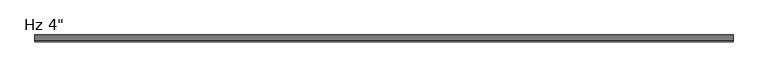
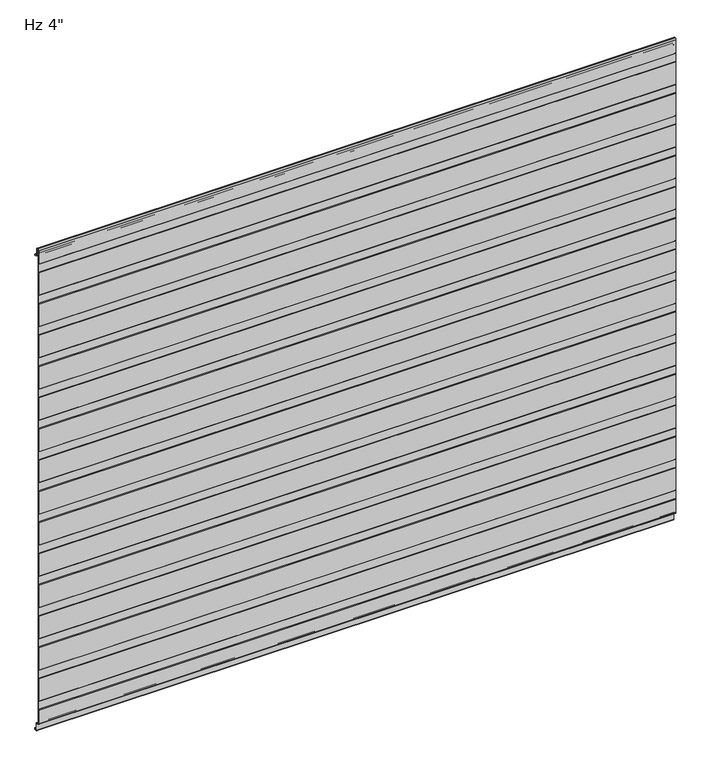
"""IFC4 building model written with IfcOpenShell, lengths in millimetres: plate geometry."""

from ifc_helpers import new_model, si_unit, frame, origin, place, context, project, spatial, polyline, circle_curve, source, transform, mapped, element, save
from ifc_brep_helpers import plane_surface, cylinder_surface, revolved_surface, advanced_brep


def plate_8299596e(model_context):
    return source(origin(), model_context, "Body", "AdvancedBrep", [
        advanced_brep(
        [(-730.0, -101.6, 966.9508592), (-730.0, -101.6, 1021.5303137), (-730.0, -100.4088405, 1022.6028385), (-730.0, -100.4088405, 1041.5009546), (-730.0, -101.6, 1042.5734794), (-730.0, -101.6, 1097.152934), (-730.0, -100.4088405, 1098.2254588), (-730.0, -100.4088405, 1117.1235749), (-730.0, -101.5999956, 1118.1960958), (-730.0, -101.5999956, 1150.8100652), (-730.0, -98.6227271, 1153.7873337), (-730.0, -97.5806285, 1153.7873337), (-730.0, -94.60336, 1150.8100652), (-730.0, -94.60336, 1136.6216801), (-730.0, -93.0154834, 1135.0338036), (-730.0, -88.6950653, 1135.0338036), (-730.0, -87.1065979, 1133.3929042), (-730.0, -87.1065979, 1131.0482432), (-730.0, -88.1060718, 1131.0482432), (-730.0, -88.1060718, 1133.4253365), (-730.0, -88.6950653, 1134.0338037), (-730.0, -93.0154834, 1134.0338037), (-730.0, -95.60336, 1136.6216801), (-730.0, -95.60336, 1150.8100652), (-730.0, -97.5806285, 1152.7873337), (-730.0, -98.6227271, 1152.7873337), (-730.0, -100.5999956, 1150.8100652), (-730.0, -100.5999956, 1118.6385351), (-730.0, -99.4088405, 1117.5660142), (-730.0, -99.4088405, 1097.7830195), (-730.0, -100.6, 1096.7104947), (-730.0, -100.6, 1043.0159187), (-730.0, -99.4088405, 1041.9433939), (-730.0, -99.4088405, 1022.1603992), (-730.0, -100.6, 1021.0878744), (-730.0, -100.6, 967.3932985), (-730.0, -99.4088405, 966.3207736), (-730.0, -99.4088405, 946.537779), (-730.0, -100.6, 945.4652541), (-730.0, -100.6, 891.7706782), (-730.0, -99.4088405, 890.6981534), (-730.0, -99.4088405, 870.9151587), (-730.0, -100.6, 869.8426339), (-730.0, -100.6, 816.148058), (-730.0, -99.4088405, 815.0755331), (-730.0, -99.4088405, 795.2925384), (-730.0, -100.6, 794.2200136), (-730.0, -100.6, 740.5254377), (-730.0, -99.4088405, 739.4529129), (-730.0, -99.4088405, 719.6699182), (-730.0, -100.6, 718.5973933), (-730.0, -100.6, 664.9028174), (-730.0, -99.4088405, 663.8302926), (-730.0, -99.4088405, 644.0472979), (-730.0, -100.6, 642.9747731), (-730.0, -100.6, 589.2801972), (-730.0, -99.4088405, 588.2076723), (-730.0, -99.4088405, 568.4246776), (-730.0, -100.6, 567.3521528), (-730.0, -100.6, 513.6575769), (-730.0, -99.4088405, 512.5850521), (-730.0, -99.4088405, 492.8020574), (-730.0, -100.6, 491.7295325), (-730.0, -100.6, 438.0349566), (-730.0, -99.4088405, 436.9624318), (-730.0, -99.4088405, 417.1794371), (-730.0, -100.6, 416.1069123), (-730.0, -100.6, 362.4123364), (-730.0, -99.4088405, 361.3398115), (-730.0, -99.4088405, 341.5568169), (-730.0, -100.6, 340.484292), (-730.0, -100.6, 286.7897161), (-730.0, -99.4088405, 285.7171913), (-730.0, -99.4088405, 265.9341966), (-730.0, -100.6, 264.8616718), (-730.0, -100.6, 211.1670958), (-730.0, -99.4088405, 210.094571), (-730.0, -99.4088405, 190.3115763), (-730.0, -100.6, 189.2390515), (-730.0, -100.6, 135.5444756), (-730.0, -99.4088405, 134.4719507), (-730.0, -99.4088405, 114.6889561), (-730.0, -100.6, 113.6164312), (-730.0, -100.6, 59.9218553), (-730.0, -99.4088405, 58.8493305), (-730.0, -99.4088405, 39.0663358), (-730.0, -100.6, 37.993811), (-730.0, -100.6, 5.82722), (-730.0, -98.6227096, 3.8499526), (-730.0, -96.3308258, 3.8499526), (-730.0, -92.3535573, -0.1273159), (-730.0, -92.3535573, -15.7237419), (-730.0, -91.7656807, -16.3116185), (-730.0, -88.694132, -16.3116185), (-730.0, -88.1062555, -15.7237419), (-730.0, -88.1062555, -13.3687064), (-730.0, -87.1062555, -13.3687064), (-730.0, -87.1062555, -15.7237419), (-730.0, -88.694132, -17.3116185), (-730.0, -91.7656807, -17.3116185), (-730.0, -93.3535573, -15.7237419), (-730.0, -93.3535573, -0.1273159), (-730.0, -96.3308258, 2.8499526), (-730.0, -98.6227096, 2.8499526), (-730.0, -101.5999782, 5.8272193), (-730.0, -101.6, 38.4362503), (-730.0, -100.4088405, 39.5087751), (-730.0, -100.4088405, 58.4068912), (-730.0, -101.6, 59.479416), (-730.0, -101.6, 114.0588705), (-730.0, -100.4088405, 115.1313954), (-730.0, -100.4088405, 134.0295114), (-730.0, -101.6, 135.1020363), (-730.0, -101.6, 189.6814908), (-730.0, -100.4088405, 190.7540156), (-730.0, -100.4088405, 209.6521317), (-730.0, -101.6, 210.7246565), (-730.0, -101.6, 265.3041111), (-730.0, -100.4088405, 266.3766359), (-730.0, -100.4088405, 285.274752), (-730.0, -101.6, 286.3472768), (-730.0, -101.6, 340.9267313), (-730.0, -100.4088405, 341.9992562), (-730.0, -100.4088405, 360.8973722), (-730.0, -101.6, 361.9698971), (-730.0, -101.6, 416.5493516), (-730.0, -100.4088405, 417.6218764), (-730.0, -100.4088405, 436.5199925), (-730.0, -101.6, 437.5925173), (-730.0, -101.6, 492.1719719), (-730.0, -100.4088405, 493.2444967), (-730.0, -100.4088405, 512.1426127), (-730.0, -101.6, 513.2151376), (-730.0, -101.6, 567.7945921), (-730.0, -100.4088405, 568.867117), (-730.0, -100.4088405, 587.765233), (-730.0, -101.6, 588.8377578), (-730.0, -101.6, 643.4172124), (-730.0, -100.4088405, 644.4897372), (-730.0, -100.4088405, 663.3878533), (-730.0, -101.6, 664.4603781), (-730.0, -101.6, 719.0398327), (-730.0, -100.4088405, 720.1123575), (-730.0, -100.4088405, 739.0104735), (-730.0, -101.6, 740.0829984), (-730.0, -101.6, 794.6624529), (-730.0, -100.4088405, 795.7349778), (-730.0, -100.4088405, 814.6330938), (-730.0, -101.6, 815.7056186), (-730.0, -101.6, 870.2850732), (-730.0, -100.4088405, 871.357598), (-730.0, -100.4088405, 890.2557141), (-730.0, -101.6, 891.3282389), (-730.0, -101.6, 945.9076934), (-730.0, -100.4088405, 946.9802183), (-730.0, -100.4088405, 965.8783343), (730.0, -101.6, 966.9508592), (730.0, -100.4088405, 965.8783343), (730.0, -100.4088405, 946.9802183), (730.0, -101.6, 945.9076934), (730.0, -101.6, 891.3282389), (730.0, -100.4088405, 890.2557141), (730.0, -100.4088405, 871.357598), (730.0, -101.6, 870.2850732), (730.0, -101.6, 815.7056186), (730.0, -100.4088405, 814.6330938), (730.0, -100.4088405, 795.7349778), (730.0, -101.6, 794.6624529), (730.0, -101.6, 740.0829984), (730.0, -100.4088405, 739.0104735), (730.0, -100.4088405, 720.1123575), (730.0, -101.6, 719.0398327), (730.0, -101.6, 664.4603781), (730.0, -100.4088405, 663.3878533), (730.0, -100.4088405, 644.4897372), (730.0, -101.6, 643.4172124), (730.0, -101.6, 588.8377578), (730.0, -100.4088405, 587.765233), (730.0, -100.4088405, 568.867117), (730.0, -101.6, 567.7945921), (730.0, -101.6, 513.2151376), (730.0, -100.4088405, 512.1426127), (730.0, -100.4088405, 493.2444967), (730.0, -101.6, 492.1719719), (730.0, -101.6, 437.5925173), (730.0, -100.4088405, 436.5199925), (730.0, -100.4088405, 417.6218764), (730.0, -101.6, 416.5493516), (730.0, -101.6, 361.9698971), (730.0, -100.4088405, 360.8973722), (730.0, -100.4088405, 341.9992562), (730.0, -101.6, 340.9267313), (730.0, -101.6, 286.3472768), (730.0, -100.4088405, 285.274752), (730.0, -100.4088405, 266.3766359), (730.0, -101.6, 265.3041111), (730.0, -101.6, 210.7246565), (730.0, -100.4088405, 209.6521317), (730.0, -100.4088405, 190.7540156), (730.0, -101.6, 189.6814908), (730.0, -101.6, 135.1020363), (730.0, -100.4088405, 134.0295114), (730.0, -100.4088405, 115.1313954), (730.0, -101.6, 114.0588705), (730.0, -101.6, 59.479416), (730.0, -100.4088405, 58.4068912), (730.0, -100.4088405, 39.5087751), (730.0, -101.6, 38.4362503), (730.0, -101.6, 5.8272193), (730.0, -98.6227096, 2.8499526), (730.0, -96.3308258, 2.8499526), (730.0, -93.3535573, -0.1273159), (730.0, -93.3535573, -15.7237419), (730.0, -91.7656807, -17.3116185), (730.0, -88.694132, -17.3116185), (730.0, -87.1062555, -15.7237419), (730.0, -87.1062555, -13.3687064), (730.0, -88.1062555, -13.3687064), (730.0, -88.1062555, -15.7237419), (730.0, -88.694132, -16.3116185), (730.0, -91.7656807, -16.3116185), (730.0, -92.3535573, -15.7237419), (730.0, -92.3535573, -0.1273159), (730.0, -96.3308258, 3.8499526), (730.0, -98.6227096, 3.8499526), (730.0, -100.5999782, 5.82722), (730.0, -100.6, 37.993811), (730.0, -99.4088405, 39.0663358), (730.0, -99.4088405, 58.8493305), (730.0, -100.6, 59.9218553), (730.0, -100.6, 113.6164312), (730.0, -99.4088405, 114.6889561), (730.0, -99.4088405, 134.4719507), (730.0, -100.6, 135.5444756), (730.0, -100.6, 189.2390515), (730.0, -99.4088405, 190.3115763), (730.0, -99.4088405, 210.094571), (730.0, -100.6, 211.1670958), (730.0, -100.6, 264.8616718), (730.0, -99.4088405, 265.9341966), (730.0, -99.4088405, 285.7171913), (730.0, -100.6, 286.7897161), (730.0, -100.6, 340.484292), (730.0, -99.4088405, 341.5568169), (730.0, -99.4088405, 361.3398115), (730.0, -100.6, 362.4123364), (730.0, -100.6, 416.1069123), (730.0, -99.4088405, 417.1794371), (730.0, -99.4088405, 436.9624318), (730.0, -100.6, 438.0349566), (730.0, -100.6, 491.7295325), (730.0, -99.4088405, 492.8020574), (730.0, -99.4088405, 512.5850521), (730.0, -100.6, 513.6575769), (730.0, -100.6, 567.3521528), (730.0, -99.4088405, 568.4246776), (730.0, -99.4088405, 588.2076723), (730.0, -100.6, 589.2801972), (730.0, -100.6, 642.9747731), (730.0, -99.4088405, 644.0472979), (730.0, -99.4088405, 663.8302926), (730.0, -100.6, 664.9028174), (730.0, -100.6, 718.5973933), (730.0, -99.4088405, 719.6699182), (730.0, -99.4088405, 739.4529129), (730.0, -100.6, 740.5254377), (730.0, -100.6, 794.2200136), (730.0, -99.4088405, 795.2925384), (730.0, -99.4088405, 815.0755331), (730.0, -100.6, 816.148058), (730.0, -100.6, 869.8426339), (730.0, -99.4088405, 870.9151587), (730.0, -99.4088405, 890.6981534), (730.0, -100.6, 891.7706782), (730.0, -100.6, 945.4652541), (730.0, -99.4088405, 946.537779), (730.0, -99.4088405, 966.3207736), (730.0, -100.6, 967.3932985), (730.0, -100.6, 1021.0878744), (730.0, -99.4088405, 1022.1603992), (730.0, -99.4088405, 1041.9433939), (730.0, -100.6, 1043.0159187), (730.0, -100.6, 1096.7104947), (730.0, -99.4088405, 1097.7830195), (730.0, -99.4088405, 1117.5660142), (730.0, -100.5999956, 1118.6385351), (730.0, -100.5999956, 1150.8100652), (730.0, -98.6227271, 1152.7873337), (730.0, -97.5806285, 1152.7873337), (730.0, -95.60336, 1150.8100652), (730.0, -95.60336, 1136.6216801), (730.0, -93.0154834, 1134.0338036), (730.0, -88.6950653, 1134.0338037), (730.0, -88.1060718, 1133.4253365), (730.0, -88.1060718, 1131.0482432), (730.0, -87.1065979, 1131.0482432), (730.0, -87.1065979, 1133.3929042), (730.0, -88.6950653, 1135.0338037), (730.0, -93.0154834, 1135.0338036), (730.0, -94.60336, 1136.6216801), (730.0, -94.60336, 1150.8100652), (730.0, -97.5806285, 1153.7873337), (730.0, -98.6227271, 1153.7873337), (730.0, -101.5999956, 1150.8100652), (730.0, -101.5999956, 1118.1960958), (730.0, -100.4088405, 1117.1235749), (730.0, -100.4088405, 1098.2254588), (730.0, -101.6, 1097.152934), (730.0, -101.6, 1042.5734794), (730.0, -100.4088405, 1041.5009546), (730.0, -100.4088405, 1022.6028385), (730.0, -101.6, 1021.5303137)],
        [
            (0, 1),
            (1, 2),
            (2, 3),
            (3, 4),
            (4, 5),
            (5, 6),
            (6, 7),
            (7, 8),
            (8, 9),
            (9, 10, circle_curve(frame((-730.0, -98.6227271, 1150.8100652), z_axis=(-1.0, 0.0, 0.0), x_axis=(0.0, 0.0, -1.0)), 2.9772685)),
            (10, 11),
            (11, 12, circle_curve(frame((-730.0, -97.5806285, 1150.8100652), z_axis=(-1.0, 0.0, 0.0), x_axis=(0.0, 0.0, -1.0)), 2.9772685)),
            (12, 13),
            (13, 14, circle_curve(frame((-730.0, -93.0154834, 1136.6216801), z_axis=(1.0, 0.0, 0.0), x_axis=(0.0, 0.0, -1.0)), 1.5878765)),
            (14, 15),
            (15, 16, circle_curve(frame((-730.0, -88.6950653, 1133.4444985), z_axis=(-1.0, 0.0, 0.0), x_axis=(0.0, 0.0, -1.0)), 1.5893052)),
            (16, 17),
            (17, 18),
            (18, 19),
            (19, 20, circle_curve(frame((-730.0, -88.6950653, 1133.4444985), z_axis=(1.0, 0.0, 0.0), x_axis=(0.0, 0.0, -1.0)), 0.5893052)),
            (20, 21),
            (21, 22, circle_curve(frame((-730.0, -93.0154834, 1136.6216801), z_axis=(-1.0, 0.0, 0.0), x_axis=(0.0, 0.0, -1.0)), 2.5878765)),
            (22, 23),
            (23, 24, circle_curve(frame((-730.0, -97.5806285, 1150.8100652), z_axis=(1.0, 0.0, 0.0), x_axis=(0.0, 0.0, -1.0)), 1.9772685)),
            (24, 25),
            (25, 26, circle_curve(frame((-730.0, -98.6227271, 1150.8100652), z_axis=(1.0, 0.0, 0.0), x_axis=(0.0, 0.0, -1.0)), 1.9772685)),
            (26, 27),
            (27, 28),
            (28, 29),
            (29, 30),
            (30, 31),
            (31, 32),
            (32, 33),
            (33, 34),
            (34, 35),
            (35, 36),
            (36, 37),
            (37, 38),
            (38, 39),
            (39, 40),
            (40, 41),
            (41, 42),
            (42, 43),
            (43, 44),
            (44, 45),
            (45, 46),
            (46, 47),
            (47, 48),
            (48, 49),
            (49, 50),
            (50, 51),
            (51, 52),
            (52, 53),
            (53, 54),
            (54, 55),
            (55, 56),
            (56, 57),
            (57, 58),
            (58, 59),
            (59, 60),
            (60, 61),
            (61, 62),
            (62, 63),
            (63, 64),
            (64, 65),
            (65, 66),
            (66, 67),
            (67, 68),
            (68, 69),
            (69, 70),
            (70, 71),
            (71, 72),
            (72, 73),
            (73, 74),
            (74, 75),
            (75, 76),
            (76, 77),
            (77, 78),
            (78, 79),
            (79, 80),
            (80, 81),
            (81, 82),
            (82, 83),
            (83, 84),
            (84, 85),
            (85, 86),
            (86, 87),
            (87, 88, circle_curve(frame((-730.0, -98.6227096, 5.8272212), z_axis=(1.0, 0.0, 0.0), x_axis=(0.0, 0.0, -1.0)), 1.9772685)),
            (88, 89),
            (89, 90, circle_curve(frame((-730.0, -96.3308258, -0.1273159), z_axis=(-1.0, 0.0, 0.0), x_axis=(0.0, 0.0, -1.0)), 3.9772685)),
            (90, 91),
            (91, 92, circle_curve(frame((-730.0, -91.7656807, -15.7237419), z_axis=(1.0, 0.0, 0.0), x_axis=(0.0, 0.0, -1.0)), 0.5878765)),
            (92, 93),
            (93, 94, circle_curve(frame((-730.0, -88.694132, -15.7237419), z_axis=(1.0, 0.0, 0.0), x_axis=(0.0, 0.0, -1.0)), 0.5878765)),
            (94, 95),
            (95, 96),
            (96, 97),
            (97, 98, circle_curve(frame((-730.0, -88.694132, -15.7237419), z_axis=(-1.0, 0.0, 0.0), x_axis=(0.0, 0.0, -1.0)), 1.5878765)),
            (98, 99),
            (99, 100, circle_curve(frame((-730.0, -91.7656807, -15.7237419), z_axis=(-1.0, 0.0, 0.0), x_axis=(0.0, 0.0, -1.0)), 1.5878765)),
            (100, 101),
            (101, 102, circle_curve(frame((-730.0, -96.3308258, -0.1273159), z_axis=(1.0, 0.0, 0.0), x_axis=(0.0, 0.0, -1.0)), 2.9772685)),
            (102, 103),
            (103, 104, circle_curve(frame((-730.0, -98.6227096, 5.8272211), z_axis=(-1.0, 0.0, 0.0), x_axis=(0.0, 0.0, -1.0)), 2.9772685)),
            (104, 105),
            (105, 106),
            (106, 107),
            (107, 108),
            (108, 109),
            (109, 110),
            (110, 111),
            (111, 112),
            (112, 113),
            (113, 114),
            (114, 115),
            (115, 116),
            (116, 117),
            (117, 118),
            (118, 119),
            (119, 120),
            (120, 121),
            (121, 122),
            (122, 123),
            (123, 124),
            (124, 125),
            (125, 126),
            (126, 127),
            (127, 128),
            (128, 129),
            (129, 130),
            (130, 131),
            (131, 132),
            (132, 133),
            (133, 134),
            (134, 135),
            (135, 136),
            (136, 137),
            (137, 138),
            (138, 139),
            (139, 140),
            (140, 141),
            (141, 142),
            (142, 143),
            (143, 144),
            (144, 145),
            (145, 146),
            (146, 147),
            (147, 148),
            (148, 149),
            (149, 150),
            (150, 151),
            (151, 152),
            (152, 153),
            (153, 154),
            (154, 155),
            (155, 0),
            (156, 157),
            (157, 158),
            (158, 159),
            (159, 160),
            (160, 161),
            (161, 162),
            (162, 163),
            (163, 164),
            (164, 165),
            (165, 166),
            (166, 167),
            (167, 168),
            (168, 169),
            (169, 170),
            (170, 171),
            (171, 172),
            (172, 173),
            (173, 174),
            (174, 175),
            (175, 176),
            (176, 177),
            (177, 178),
            (178, 179),
            (179, 180),
            (180, 181),
            (181, 182),
            (182, 183),
            (183, 184),
            (184, 185),
            (185, 186),
            (186, 187),
            (187, 188),
            (188, 189),
            (189, 190),
            (190, 191),
            (191, 192),
            (192, 193),
            (193, 194),
            (194, 195),
            (195, 196),
            (196, 197),
            (197, 198),
            (198, 199),
            (199, 200),
            (200, 201),
            (201, 202),
            (202, 203),
            (203, 204),
            (204, 205),
            (205, 206),
            (206, 207),
            (207, 208),
            (208, 209, circle_curve(frame((730.0, -98.6227096, 5.8272211), z_axis=(1.0, 0.0, 0.0), x_axis=(0.0, 0.0, -1.0)), 2.9772685)),
            (209, 210),
            (210, 211, circle_curve(frame((730.0, -96.3308258, -0.1273159), z_axis=(-1.0, 0.0, 0.0), x_axis=(0.0, 0.0, -1.0)), 2.9772685)),
            (211, 212),
            (212, 213, circle_curve(frame((730.0, -91.7656807, -15.7237419), z_axis=(1.0, 0.0, 0.0), x_axis=(0.0, 0.0, -1.0)), 1.5878765)),
            (213, 214),
            (214, 215, circle_curve(frame((730.0, -88.694132, -15.7237419), z_axis=(1.0, 0.0, 0.0), x_axis=(0.0, 0.0, -1.0)), 1.5878765)),
            (215, 216),
            (216, 217),
            (217, 218),
            (218, 219, circle_curve(frame((730.0, -88.694132, -15.7237419), z_axis=(-1.0, 0.0, 0.0), x_axis=(0.0, 0.0, -1.0)), 0.5878765)),
            (219, 220),
            (220, 221, circle_curve(frame((730.0, -91.7656807, -15.7237419), z_axis=(-1.0, 0.0, 0.0), x_axis=(0.0, 0.0, -1.0)), 0.5878765)),
            (221, 222),
            (222, 223, circle_curve(frame((730.0, -96.3308258, -0.1273159), z_axis=(1.0, 0.0, 0.0), x_axis=(0.0, 0.0, -1.0)), 3.9772685)),
            (223, 224),
            (224, 225, circle_curve(frame((730.0, -98.6227096, 5.8272212), z_axis=(-1.0, 0.0, 0.0), x_axis=(0.0, 0.0, -1.0)), 1.9772685)),
            (225, 226),
            (226, 227),
            (227, 228),
            (228, 229),
            (229, 230),
            (230, 231),
            (231, 232),
            (232, 233),
            (233, 234),
            (234, 235),
            (235, 236),
            (236, 237),
            (237, 238),
            (238, 239),
            (239, 240),
            (240, 241),
            (241, 242),
            (242, 243),
            (243, 244),
            (244, 245),
            (245, 246),
            (246, 247),
            (247, 248),
            (248, 249),
            (249, 250),
            (250, 251),
            (251, 252),
            (252, 253),
            (253, 254),
            (254, 255),
            (255, 256),
            (256, 257),
            (257, 258),
            (258, 259),
            (259, 260),
            (260, 261),
            (261, 262),
            (262, 263),
            (263, 264),
            (264, 265),
            (265, 266),
            (266, 267),
            (267, 268),
            (268, 269),
            (269, 270),
            (270, 271),
            (271, 272),
            (272, 273),
            (273, 274),
            (274, 275),
            (275, 276),
            (276, 277),
            (277, 278),
            (278, 279),
            (279, 280),
            (280, 281),
            (281, 282),
            (282, 283),
            (283, 284),
            (284, 285),
            (285, 286),
            (286, 287, circle_curve(frame((730.0, -98.6227271, 1150.8100652), z_axis=(-1.0, 0.0, 0.0), x_axis=(0.0, 0.0, -1.0)), 1.9772685)),
            (287, 288),
            (288, 289, circle_curve(frame((730.0, -97.5806285, 1150.8100652), z_axis=(-1.0, 0.0, 0.0), x_axis=(0.0, 0.0, -1.0)), 1.9772685)),
            (289, 290),
            (290, 291, circle_curve(frame((730.0, -93.0154834, 1136.6216801), z_axis=(1.0, 0.0, 0.0), x_axis=(0.0, 0.0, -1.0)), 2.5878765)),
            (291, 292),
            (292, 293, circle_curve(frame((730.0, -88.6950653, 1133.4444985), z_axis=(-1.0, 0.0, 0.0), x_axis=(0.0, 0.0, -1.0)), 0.5893052)),
            (293, 294),
            (294, 295),
            (295, 296),
            (296, 297, circle_curve(frame((730.0, -88.6950653, 1133.4444985), z_axis=(1.0, 0.0, 0.0), x_axis=(0.0, 0.0, -1.0)), 1.5893052)),
            (297, 298),
            (298, 299, circle_curve(frame((730.0, -93.0154834, 1136.6216801), z_axis=(-1.0, 0.0, 0.0), x_axis=(0.0, 0.0, -1.0)), 1.5878765)),
            (299, 300),
            (300, 301, circle_curve(frame((730.0, -97.5806285, 1150.8100652), z_axis=(1.0, 0.0, 0.0), x_axis=(0.0, 0.0, -1.0)), 2.9772685)),
            (301, 302),
            (302, 303, circle_curve(frame((730.0, -98.6227271, 1150.8100652), z_axis=(1.0, 0.0, 0.0), x_axis=(0.0, 0.0, -1.0)), 2.9772685)),
            (303, 304),
            (304, 305),
            (305, 306),
            (306, 307),
            (307, 308),
            (308, 309),
            (309, 310),
            (310, 311),
            (311, 156),
            (155, 157),
            (156, 0),
            (154, 158),
            (153, 159),
            (152, 160),
            (151, 161),
            (150, 162),
            (149, 163),
            (148, 164),
            (147, 165),
            (146, 166),
            (145, 167),
            (144, 168),
            (143, 169),
            (142, 170),
            (141, 171),
            (140, 172),
            (139, 173),
            (138, 174),
            (137, 175),
            (136, 176),
            (135, 177),
            (134, 178),
            (133, 179),
            (132, 180),
            (131, 181),
            (130, 182),
            (129, 183),
            (128, 184),
            (127, 185),
            (126, 186),
            (125, 187),
            (124, 188),
            (123, 189),
            (122, 190),
            (121, 191),
            (120, 192),
            (119, 193),
            (118, 194),
            (117, 195),
            (116, 196),
            (115, 197),
            (114, 198),
            (113, 199),
            (112, 200),
            (111, 201),
            (110, 202),
            (109, 203),
            (108, 204),
            (107, 205),
            (106, 206),
            (105, 207),
            (104, 208),
            (103, 209),
            (102, 210),
            (101, 211),
            (100, 212),
            (99, 213),
            (98, 214),
            (97, 215),
            (96, 216),
            (95, 217),
            (94, 218),
            (93, 219),
            (92, 220),
            (91, 221),
            (90, 222),
            (89, 223),
            (88, 224),
            (87, 225),
            (86, 226),
            (85, 227),
            (84, 228),
            (83, 229),
            (82, 230),
            (81, 231),
            (80, 232),
            (79, 233),
            (78, 234),
            (77, 235),
            (76, 236),
            (75, 237),
            (74, 238),
            (73, 239),
            (72, 240),
            (71, 241),
            (70, 242),
            (69, 243),
            (68, 244),
            (67, 245),
            (66, 246),
            (65, 247),
            (64, 248),
            (63, 249),
            (62, 250),
            (61, 251),
            (60, 252),
            (59, 253),
            (58, 254),
            (57, 255),
            (56, 256),
            (55, 257),
            (54, 258),
            (53, 259),
            (52, 260),
            (51, 261),
            (50, 262),
            (49, 263),
            (48, 264),
            (47, 265),
            (46, 266),
            (45, 267),
            (44, 268),
            (43, 269),
            (42, 270),
            (41, 271),
            (40, 272),
            (39, 273),
            (38, 274),
            (37, 275),
            (36, 276),
            (35, 277),
            (34, 278),
            (33, 279),
            (32, 280),
            (31, 281),
            (30, 282),
            (29, 283),
            (28, 284),
            (27, 285),
            (26, 286),
            (25, 287),
            (24, 288),
            (23, 289),
            (22, 290),
            (21, 291),
            (20, 292),
            (19, 293),
            (18, 294),
            (17, 295),
            (16, 296),
            (15, 297),
            (14, 298),
            (13, 299),
            (12, 300),
            (11, 301),
            (10, 302),
            (9, 303),
            (8, 304),
            (7, 305),
            (6, 306),
            (5, 307),
            (4, 308),
            (3, 309),
            (2, 310),
            (1, 311),
        ],
        [
            plane_surface(frame((-730.0, -101.6, 576.2625), z_axis=(-1.0, 0.0, 0.0), x_axis=(0.0, -1.0, 0.0))),
            plane_surface(frame((730.0, -101.6, 576.2625), z_axis=(1.0, 0.0, 0.0), x_axis=(0.0, -1.0, 0.0))),
            plane_surface(frame((-730.0, -101.6, 966.9508592), z_axis=(0.0, -0.6691306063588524, -0.7431448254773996), x_axis=(1.0, 0.0, 0.0))),
            plane_surface(frame((-730.0, -100.4088405, 965.8783343), z_axis=(0.0, -1.0, 0.0), x_axis=(1.0, 0.0, 0.0))),
            plane_surface(frame((-730.0, -100.4088405, 946.9802183), z_axis=(0.0, -0.6691306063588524, 0.7431448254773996), x_axis=(1.0, 0.0, 0.0))),
            plane_surface(frame((-730.0, -101.6, 945.9076934), z_axis=(0.0, -1.0, 0.0), x_axis=(1.0, 0.0, 0.0))),
            plane_surface(frame((-730.0, -101.6, 891.3282389), z_axis=(0.0, -0.6691306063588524, -0.7431448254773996), x_axis=(1.0, 0.0, 0.0))),
            plane_surface(frame((-730.0, -100.4088405, 890.2557141), z_axis=(0.0, -1.0, 0.0), x_axis=(1.0, 0.0, 0.0))),
            plane_surface(frame((-730.0, -100.4088405, 871.357598), z_axis=(0.0, -0.6691306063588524, 0.7431448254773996), x_axis=(1.0, 0.0, 0.0))),
            plane_surface(frame((-730.0, -101.6, 870.2850732), z_axis=(0.0, -1.0, 0.0), x_axis=(1.0, 0.0, 0.0))),
            plane_surface(frame((-730.0, -101.6, 815.7056186), z_axis=(0.0, -0.6691306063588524, -0.7431448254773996), x_axis=(1.0, 0.0, 0.0))),
            plane_surface(frame((-730.0, -100.4088405, 814.6330938), z_axis=(0.0, -1.0, 0.0), x_axis=(1.0, 0.0, 0.0))),
            plane_surface(frame((-730.0, -100.4088405, 795.7349778), z_axis=(0.0, -0.6691306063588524, 0.7431448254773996), x_axis=(1.0, 0.0, 0.0))),
            plane_surface(frame((-730.0, -101.6, 794.6624529), z_axis=(0.0, -1.0, 0.0), x_axis=(1.0, 0.0, 0.0))),
            plane_surface(frame((-730.0, -101.6, 740.0829984), z_axis=(0.0, -0.6691306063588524, -0.7431448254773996), x_axis=(1.0, 0.0, 0.0))),
            plane_surface(frame((-730.0, -100.4088405, 739.0104735), z_axis=(0.0, -1.0, 0.0), x_axis=(1.0, 0.0, 0.0))),
            plane_surface(frame((-730.0, -100.4088405, 720.1123575), z_axis=(0.0, -0.6691306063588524, 0.7431448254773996), x_axis=(1.0, 0.0, 0.0))),
            plane_surface(frame((-730.0, -101.6, 719.0398327), z_axis=(0.0, -1.0, 0.0), x_axis=(1.0, 0.0, 0.0))),
            plane_surface(frame((-730.0, -101.6, 664.4603781), z_axis=(0.0, -0.6691306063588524, -0.7431448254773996), x_axis=(1.0, 0.0, 0.0))),
            plane_surface(frame((-730.0, -100.4088405, 663.3878533), z_axis=(0.0, -1.0, 0.0), x_axis=(1.0, 0.0, 0.0))),
            plane_surface(frame((-730.0, -100.4088405, 644.4897372), z_axis=(0.0, -0.6691306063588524, 0.7431448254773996), x_axis=(1.0, 0.0, 0.0))),
            plane_surface(frame((-730.0, -101.6, 643.4172124), z_axis=(0.0, -1.0, 0.0), x_axis=(1.0, 0.0, 0.0))),
            plane_surface(frame((-730.0, -101.6, 588.8377578), z_axis=(0.0, -0.6691306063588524, -0.7431448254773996), x_axis=(1.0, 0.0, 0.0))),
            plane_surface(frame((-730.0, -100.4088405, 587.765233), z_axis=(0.0, -1.0, 0.0), x_axis=(1.0, 0.0, 0.0))),
            plane_surface(frame((-730.0, -100.4088405, 568.867117), z_axis=(0.0, -0.6691306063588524, 0.7431448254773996), x_axis=(1.0, 0.0, 0.0))),
            plane_surface(frame((-730.0, -101.6, 567.7945921), z_axis=(0.0, -1.0, 0.0), x_axis=(1.0, 0.0, 0.0))),
            plane_surface(frame((-730.0, -101.6, 513.2151376), z_axis=(0.0, -0.6691306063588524, -0.7431448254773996), x_axis=(1.0, 0.0, 0.0))),
            plane_surface(frame((-730.0, -100.4088405, 512.1426127), z_axis=(0.0, -1.0, 0.0), x_axis=(1.0, 0.0, 0.0))),
            plane_surface(frame((-730.0, -100.4088405, 493.2444967), z_axis=(0.0, -0.6691306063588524, 0.7431448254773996), x_axis=(1.0, 0.0, 0.0))),
            plane_surface(frame((-730.0, -101.6, 492.1719719), z_axis=(0.0, -1.0, 0.0), x_axis=(1.0, 0.0, 0.0))),
            plane_surface(frame((-730.0, -101.6, 437.5925173), z_axis=(0.0, -0.6691306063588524, -0.7431448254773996), x_axis=(1.0, 0.0, 0.0))),
            plane_surface(frame((-730.0, -100.4088405, 436.5199925), z_axis=(0.0, -1.0, 0.0), x_axis=(1.0, 0.0, 0.0))),
            plane_surface(frame((-730.0, -100.4088405, 417.6218764), z_axis=(0.0, -0.6691306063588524, 0.7431448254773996), x_axis=(1.0, 0.0, 0.0))),
            plane_surface(frame((-730.0, -101.6, 416.5493516), z_axis=(0.0, -1.0, 0.0), x_axis=(1.0, 0.0, 0.0))),
            plane_surface(frame((-730.0, -101.6, 361.9698971), z_axis=(0.0, -0.6691306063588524, -0.7431448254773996), x_axis=(1.0, 0.0, 0.0))),
            plane_surface(frame((-730.0, -100.4088405, 360.8973722), z_axis=(0.0, -1.0, 0.0), x_axis=(1.0, 0.0, 0.0))),
            plane_surface(frame((-730.0, -100.4088405, 341.9992562), z_axis=(0.0, -0.6691306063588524, 0.7431448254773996), x_axis=(1.0, 0.0, 0.0))),
            plane_surface(frame((-730.0, -101.6, 340.9267313), z_axis=(0.0, -1.0, 0.0), x_axis=(1.0, 0.0, 0.0))),
            plane_surface(frame((-730.0, -101.6, 286.3472768), z_axis=(0.0, -0.6691306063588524, -0.7431448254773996), x_axis=(1.0, 0.0, 0.0))),
            plane_surface(frame((-730.0, -100.4088405, 285.274752), z_axis=(0.0, -1.0, 0.0), x_axis=(1.0, 0.0, 0.0))),
            plane_surface(frame((-730.0, -100.4088405, 266.3766359), z_axis=(0.0, -0.6691306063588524, 0.7431448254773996), x_axis=(1.0, 0.0, 0.0))),
            plane_surface(frame((-730.0, -101.6, 265.3041111), z_axis=(0.0, -1.0, 0.0), x_axis=(1.0, 0.0, 0.0))),
            plane_surface(frame((-730.0, -101.6, 210.7246565), z_axis=(0.0, -0.6691306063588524, -0.7431448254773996), x_axis=(1.0, 0.0, 0.0))),
            plane_surface(frame((-730.0, -100.4088405, 209.6521317), z_axis=(0.0, -1.0, 0.0), x_axis=(1.0, 0.0, 0.0))),
            plane_surface(frame((-730.0, -100.4088405, 190.7540156), z_axis=(0.0, -0.6691306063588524, 0.7431448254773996), x_axis=(1.0, 0.0, 0.0))),
            plane_surface(frame((-730.0, -101.6, 189.6814908), z_axis=(0.0, -1.0, 0.0), x_axis=(1.0, 0.0, 0.0))),
            plane_surface(frame((-730.0, -101.6, 135.1020363), z_axis=(0.0, -0.6691306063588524, -0.7431448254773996), x_axis=(1.0, 0.0, 0.0))),
            plane_surface(frame((-730.0, -100.4088405, 134.0295114), z_axis=(0.0, -1.0, 0.0), x_axis=(1.0, 0.0, 0.0))),
            plane_surface(frame((-730.0, -100.4088405, 115.1313954), z_axis=(0.0, -0.6691306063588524, 0.7431448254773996), x_axis=(1.0, 0.0, 0.0))),
            plane_surface(frame((-730.0, -101.6, 114.0588705), z_axis=(0.0, -1.0, 0.0), x_axis=(1.0, 0.0, 0.0))),
            plane_surface(frame((-730.0, -101.6, 59.479416), z_axis=(0.0, -0.6691306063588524, -0.7431448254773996), x_axis=(1.0, 0.0, 0.0))),
            plane_surface(frame((-730.0, -100.4088405, 58.4068912), z_axis=(0.0, -1.0, 0.0), x_axis=(1.0, 0.0, 0.0))),
            plane_surface(frame((-730.0, -100.4088405, 39.5087751), z_axis=(0.0, -0.6691306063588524, 0.7431448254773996), x_axis=(1.0, 0.0, 0.0))),
            plane_surface(frame((-730.0, -101.6, 38.4362503), z_axis=(0.0, -1.0, 0.0), x_axis=(1.0, 0.0, 0.0))),
            cylinder_surface(frame((-730.0, -98.6227096, 5.8272211), z_axis=(-1.0, 0.0, 0.0), x_axis=(0.0, 0.0, -1.0)), 2.9772685),
            plane_surface(frame((-730.0, -98.6227096, 2.8499526), z_axis=(0.0, 0.0, -1.0), x_axis=(1.0, 0.0, 0.0))),
            revolved_surface(polyline([(730.0, -96.3308258, -3.1045844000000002), (-730.0, -96.3308258, -3.1045844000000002)]), (-730.0, -96.3308258, -0.1273159), (1.0, 0.0, 0.0)),
            plane_surface(frame((-730.0, -93.3535573, -0.1273159), z_axis=(0.0, -1.0, 0.0), x_axis=(1.0, 0.0, 0.0))),
            cylinder_surface(frame((-730.0, -91.7656807, -15.7237419), z_axis=(-1.0, 0.0, 0.0), x_axis=(0.0, 0.0, -1.0)), 1.5878765),
            plane_surface(frame((-730.0, -91.7656807, -17.3116185), z_axis=(0.0, 0.0, -1.0), x_axis=(1.0, 0.0, 0.0))),
            cylinder_surface(frame((-730.0, -88.694132, -15.7237419), z_axis=(-1.0, 0.0, 0.0), x_axis=(0.0, 0.0, -1.0)), 1.5878765),
            plane_surface(frame((-730.0, -87.1062555, -15.7237419), z_axis=(0.0, 1.0, 0.0), x_axis=(1.0, 0.0, 0.0))),
            plane_surface(frame((-730.0, -87.1062555, -13.3687064), z_axis=(0.0, 0.0, 1.0), x_axis=(1.0, 0.0, 0.0))),
            plane_surface(frame((-730.0, -88.1062555, -13.3687064), z_axis=(0.0, -1.0, 0.0), x_axis=(1.0, 0.0, 0.0))),
            revolved_surface(polyline([(730.0, -88.694132, -16.3116184), (-730.0, -88.694132, -16.3116184)]), (-730.0, -88.694132, -15.7237419), (1.0, 0.0, 0.0)),
            plane_surface(frame((-730.0, -88.694132, -16.3116185), z_axis=(0.0, 0.0, 1.0), x_axis=(1.0, 0.0, 0.0))),
            revolved_surface(polyline([(730.0, -91.7656807, -16.3116184), (-730.0, -91.7656807, -16.3116184)]), (-730.0, -91.7656807, -15.7237419), (1.0, 0.0, 0.0)),
            plane_surface(frame((-730.0, -92.3535573, -15.7237419), z_axis=(0.0, 1.0, 0.0), x_axis=(1.0, 0.0, 0.0))),
            cylinder_surface(frame((-730.0, -96.3308258, -0.1273159), z_axis=(-1.0, 0.0, 0.0), x_axis=(0.0, 0.0, -1.0)), 3.9772685),
            plane_surface(frame((-730.0, -96.3308258, 3.8499526), z_axis=(0.0, 0.0, 1.0), x_axis=(1.0, 0.0, 0.0))),
            revolved_surface(polyline([(730.0, -98.6227096, 3.8499527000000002), (-730.0, -98.6227096, 3.8499527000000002)]), (-730.0, -98.6227096, 5.8272212), (1.0, 0.0, 0.0)),
            plane_surface(frame((-730.0, -100.6, 5.82722), z_axis=(0.0, 1.0, 0.0), x_axis=(1.0, 0.0, 0.0))),
            plane_surface(frame((-730.0, -100.6, 37.993811), z_axis=(0.0, 0.6691306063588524, -0.7431448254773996), x_axis=(1.0, 0.0, 0.0))),
            plane_surface(frame((-730.0, -99.4088405, 39.0663358), z_axis=(0.0, 1.0, 0.0), x_axis=(1.0, 0.0, 0.0))),
            plane_surface(frame((-730.0, -99.4088405, 58.8493305), z_axis=(0.0, 0.6691306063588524, 0.7431448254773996), x_axis=(1.0, 0.0, 0.0))),
            plane_surface(frame((-730.0, -100.6, 59.9218553), z_axis=(0.0, 1.0, 0.0), x_axis=(1.0, 0.0, 0.0))),
            plane_surface(frame((-730.0, -100.6, 113.6164312), z_axis=(0.0, 0.6691306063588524, -0.7431448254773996), x_axis=(1.0, 0.0, 0.0))),
            plane_surface(frame((-730.0, -99.4088405, 114.6889561), z_axis=(0.0, 1.0, 0.0), x_axis=(1.0, 0.0, 0.0))),
            plane_surface(frame((-730.0, -99.4088405, 134.4719507), z_axis=(0.0, 0.6691306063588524, 0.7431448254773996), x_axis=(1.0, 0.0, 0.0))),
            plane_surface(frame((-730.0, -100.6, 135.5444756), z_axis=(0.0, 1.0, 0.0), x_axis=(1.0, 0.0, 0.0))),
            plane_surface(frame((-730.0, -100.6, 189.2390515), z_axis=(0.0, 0.6691306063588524, -0.7431448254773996), x_axis=(1.0, 0.0, 0.0))),
            plane_surface(frame((-730.0, -99.4088405, 190.3115763), z_axis=(0.0, 1.0, 0.0), x_axis=(1.0, 0.0, 0.0))),
            plane_surface(frame((-730.0, -99.4088405, 210.094571), z_axis=(0.0, 0.6691306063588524, 0.7431448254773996), x_axis=(1.0, 0.0, 0.0))),
            plane_surface(frame((-730.0, -100.6, 211.1670958), z_axis=(0.0, 1.0, 0.0), x_axis=(1.0, 0.0, 0.0))),
            plane_surface(frame((-730.0, -100.6, 264.8616718), z_axis=(0.0, 0.6691306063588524, -0.7431448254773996), x_axis=(1.0, 0.0, 0.0))),
            plane_surface(frame((-730.0, -99.4088405, 265.9341966), z_axis=(0.0, 1.0, 0.0), x_axis=(1.0, 0.0, 0.0))),
            plane_surface(frame((-730.0, -99.4088405, 285.7171913), z_axis=(0.0, 0.6691306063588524, 0.7431448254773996), x_axis=(1.0, 0.0, 0.0))),
            plane_surface(frame((-730.0, -100.6, 286.7897161), z_axis=(0.0, 1.0, 0.0), x_axis=(1.0, 0.0, 0.0))),
            plane_surface(frame((-730.0, -100.6, 340.484292), z_axis=(0.0, 0.6691306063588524, -0.7431448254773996), x_axis=(1.0, 0.0, 0.0))),
            plane_surface(frame((-730.0, -99.4088405, 341.5568169), z_axis=(0.0, 1.0, 0.0), x_axis=(1.0, 0.0, 0.0))),
            plane_surface(frame((-730.0, -99.4088405, 361.3398115), z_axis=(0.0, 0.6691306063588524, 0.7431448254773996), x_axis=(1.0, 0.0, 0.0))),
            plane_surface(frame((-730.0, -100.6, 362.4123364), z_axis=(0.0, 1.0, 0.0), x_axis=(1.0, 0.0, 0.0))),
            plane_surface(frame((-730.0, -100.6, 416.1069123), z_axis=(0.0, 0.6691306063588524, -0.7431448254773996), x_axis=(1.0, 0.0, 0.0))),
            plane_surface(frame((-730.0, -99.4088405, 417.1794371), z_axis=(0.0, 1.0, 0.0), x_axis=(1.0, 0.0, 0.0))),
            plane_surface(frame((-730.0, -99.4088405, 436.9624318), z_axis=(0.0, 0.6691306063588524, 0.7431448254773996), x_axis=(1.0, 0.0, 0.0))),
            plane_surface(frame((-730.0, -100.6, 438.0349566), z_axis=(0.0, 1.0, 0.0), x_axis=(1.0, 0.0, 0.0))),
            plane_surface(frame((-730.0, -100.6, 491.7295325), z_axis=(0.0, 0.6691306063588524, -0.7431448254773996), x_axis=(1.0, 0.0, 0.0))),
            plane_surface(frame((-730.0, -99.4088405, 492.8020574), z_axis=(0.0, 1.0, 0.0), x_axis=(1.0, 0.0, 0.0))),
            plane_surface(frame((-730.0, -99.4088405, 512.5850521), z_axis=(0.0, 0.6691306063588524, 0.7431448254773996), x_axis=(1.0, 0.0, 0.0))),
            plane_surface(frame((-730.0, -100.6, 513.6575769), z_axis=(0.0, 1.0, 0.0), x_axis=(1.0, 0.0, 0.0))),
            plane_surface(frame((-730.0, -100.6, 567.3521528), z_axis=(0.0, 0.6691306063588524, -0.7431448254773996), x_axis=(1.0, 0.0, 0.0))),
            plane_surface(frame((-730.0, -99.4088405, 568.4246776), z_axis=(0.0, 1.0, 0.0), x_axis=(1.0, 0.0, 0.0))),
            plane_surface(frame((-730.0, -99.4088405, 588.2076723), z_axis=(0.0, 0.6691306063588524, 0.7431448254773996), x_axis=(1.0, 0.0, 0.0))),
            plane_surface(frame((-730.0, -100.6, 589.2801972), z_axis=(0.0, 1.0, 0.0), x_axis=(1.0, 0.0, 0.0))),
            plane_surface(frame((-730.0, -100.6, 642.9747731), z_axis=(0.0, 0.6691306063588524, -0.7431448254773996), x_axis=(1.0, 0.0, 0.0))),
            plane_surface(frame((-730.0, -99.4088405, 644.0472979), z_axis=(0.0, 1.0, 0.0), x_axis=(1.0, 0.0, 0.0))),
            plane_surface(frame((-730.0, -99.4088405, 663.8302926), z_axis=(0.0, 0.6691306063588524, 0.7431448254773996), x_axis=(1.0, 0.0, 0.0))),
            plane_surface(frame((-730.0, -100.6, 664.9028174), z_axis=(0.0, 1.0, 0.0), x_axis=(1.0, 0.0, 0.0))),
            plane_surface(frame((-730.0, -100.6, 718.5973933), z_axis=(0.0, 0.6691306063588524, -0.7431448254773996), x_axis=(1.0, 0.0, 0.0))),
            plane_surface(frame((-730.0, -99.4088405, 719.6699182), z_axis=(0.0, 1.0, 0.0), x_axis=(1.0, 0.0, 0.0))),
            plane_surface(frame((-730.0, -99.4088405, 739.4529129), z_axis=(0.0, 0.6691306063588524, 0.7431448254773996), x_axis=(1.0, 0.0, 0.0))),
            plane_surface(frame((-730.0, -100.6, 740.5254377), z_axis=(0.0, 1.0, 0.0), x_axis=(1.0, 0.0, 0.0))),
            plane_surface(frame((-730.0, -100.6, 794.2200136), z_axis=(0.0, 0.6691306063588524, -0.7431448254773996), x_axis=(1.0, 0.0, 0.0))),
            plane_surface(frame((-730.0, -99.4088405, 795.2925384), z_axis=(0.0, 1.0, 0.0), x_axis=(1.0, 0.0, 0.0))),
            plane_surface(frame((-730.0, -99.4088405, 815.0755331), z_axis=(0.0, 0.6691306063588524, 0.7431448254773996), x_axis=(1.0, 0.0, 0.0))),
            plane_surface(frame((-730.0, -100.6, 816.148058), z_axis=(0.0, 1.0, 0.0), x_axis=(1.0, 0.0, 0.0))),
            plane_surface(frame((-730.0, -100.6, 869.8426339), z_axis=(0.0, 0.6691306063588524, -0.7431448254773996), x_axis=(1.0, 0.0, 0.0))),
            plane_surface(frame((-730.0, -99.4088405, 870.9151587), z_axis=(0.0, 1.0, 0.0), x_axis=(1.0, 0.0, 0.0))),
            plane_surface(frame((-730.0, -99.4088405, 890.6981534), z_axis=(0.0, 0.6691306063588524, 0.7431448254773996), x_axis=(1.0, 0.0, 0.0))),
            plane_surface(frame((-730.0, -100.6, 891.7706782), z_axis=(0.0, 1.0, 0.0), x_axis=(1.0, 0.0, 0.0))),
            plane_surface(frame((-730.0, -100.6, 945.4652541), z_axis=(0.0, 0.6691306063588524, -0.7431448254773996), x_axis=(1.0, 0.0, 0.0))),
            plane_surface(frame((-730.0, -99.4088405, 946.537779), z_axis=(0.0, 1.0, 0.0), x_axis=(1.0, 0.0, 0.0))),
            plane_surface(frame((-730.0, -99.4088405, 966.3207736), z_axis=(0.0, 0.6691306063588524, 0.7431448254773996), x_axis=(1.0, 0.0, 0.0))),
            plane_surface(frame((-730.0, -100.6, 967.3932985), z_axis=(0.0, 1.0, 0.0), x_axis=(1.0, 0.0, 0.0))),
            plane_surface(frame((-730.0, -100.6, 1021.0878744), z_axis=(0.0, 0.6691306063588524, -0.7431448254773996), x_axis=(1.0, 0.0, 0.0))),
            plane_surface(frame((-730.0, -99.4088405, 1022.1603992), z_axis=(0.0, 1.0, 0.0), x_axis=(1.0, 0.0, 0.0))),
            plane_surface(frame((-730.0, -99.4088405, 1041.9433939), z_axis=(0.0, 0.6691306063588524, 0.7431448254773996), x_axis=(1.0, 0.0, 0.0))),
            plane_surface(frame((-730.0, -100.6, 1043.0159187), z_axis=(0.0, 1.0, 0.0), x_axis=(1.0, 0.0, 0.0))),
            plane_surface(frame((-730.0, -100.6, 1096.7104947), z_axis=(0.0, 0.6691306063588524, -0.7431448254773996), x_axis=(1.0, 0.0, 0.0))),
            plane_surface(frame((-730.0, -99.4088405, 1097.7830195), z_axis=(0.0, 1.0, 0.0), x_axis=(1.0, 0.0, 0.0))),
            plane_surface(frame((-730.0, -99.4088405, 1117.5660142), z_axis=(0.0, 0.6691306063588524, 0.7431448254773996), x_axis=(1.0, 0.0, 0.0))),
            plane_surface(frame((-730.0, -100.5999956, 1118.6385351), z_axis=(0.0, 1.0, 0.0), x_axis=(1.0, 0.0, 0.0))),
            revolved_surface(polyline([(730.0, -98.6227271, 1148.8327967), (-730.0, -98.6227271, 1148.8327967)]), (-730.0, -98.6227271, 1150.8100652), (1.0, 0.0, 0.0)),
            plane_surface(frame((-730.0, -98.6227271, 1152.7873337), z_axis=(0.0, 0.0, -1.0), x_axis=(1.0, 0.0, 0.0))),
            revolved_surface(polyline([(730.0, -97.5806285, 1148.8327967), (-730.0, -97.5806285, 1148.8327967)]), (-730.0, -97.5806285, 1150.8100652), (1.0, 0.0, 0.0)),
            plane_surface(frame((-730.0, -95.60336, 1150.8100652), z_axis=(0.0, -1.0, 0.0), x_axis=(1.0, 0.0, 0.0))),
            cylinder_surface(frame((-730.0, -93.0154834, 1136.6216801), z_axis=(-1.0, 0.0, 0.0), x_axis=(0.0, 0.0, -1.0)), 2.5878765),
            plane_surface(frame((-730.0, -93.0154834, 1134.0338037), z_axis=(0.0, 0.0, -1.0), x_axis=(1.0, 0.0, 0.0))),
            revolved_surface(polyline([(730.0, -88.6950653, 1132.8551933), (-730.0, -88.6950653, 1132.8551933)]), (-730.0, -88.6950653, 1133.4444985), (1.0, 0.0, 0.0)),
            plane_surface(frame((-730.0, -88.1060718, 1133.4253365), z_axis=(0.0, -1.0, 0.0), x_axis=(1.0, 0.0, 0.0))),
            plane_surface(frame((-730.0, -88.1060718, 1131.0482432), z_axis=(0.0, 0.0, -1.0), x_axis=(1.0, 0.0, 0.0))),
            plane_surface(frame((-730.0, -87.1065979, 1131.0482432), z_axis=(0.0, 1.0, 0.0), x_axis=(1.0, 0.0, 0.0))),
            cylinder_surface(frame((-730.0, -88.6950653, 1133.4444985), z_axis=(-1.0, 0.0, 0.0), x_axis=(0.0, 0.0, -1.0)), 1.5893052),
            plane_surface(frame((-730.0, -88.6950653, 1135.0338036), z_axis=(0.0, 0.0, 1.0), x_axis=(1.0, 0.0, 0.0))),
            revolved_surface(polyline([(730.0, -93.0154834, 1135.0338036), (-730.0, -93.0154834, 1135.0338036)]), (-730.0, -93.0154834, 1136.6216801), (1.0, 0.0, 0.0)),
            plane_surface(frame((-730.0, -94.60336, 1136.6216801), z_axis=(0.0, 1.0, 0.0), x_axis=(1.0, 0.0, 0.0))),
            cylinder_surface(frame((-730.0, -97.5806285, 1150.8100652), z_axis=(-1.0, 0.0, 0.0), x_axis=(0.0, 0.0, -1.0)), 2.9772685),
            plane_surface(frame((-730.0, -97.5806285, 1153.7873337), z_axis=(0.0, 0.0, 1.0), x_axis=(1.0, 0.0, 0.0))),
            cylinder_surface(frame((-730.0, -98.6227271, 1150.8100652), z_axis=(-1.0, 0.0, 0.0), x_axis=(0.0, 0.0, -1.0)), 2.9772685),
            plane_surface(frame((-730.0, -101.5999956, 1150.8100652), z_axis=(0.0, -1.0, 0.0), x_axis=(1.0, 0.0, 0.0))),
            plane_surface(frame((-730.0, -101.5999956, 1118.1960958), z_axis=(0.0, -0.6691306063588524, -0.7431448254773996), x_axis=(1.0, 0.0, 0.0))),
            plane_surface(frame((-730.0, -100.4088405, 1117.1235749), z_axis=(0.0, -1.0, 0.0), x_axis=(1.0, 0.0, 0.0))),
            plane_surface(frame((-730.0, -100.4088405, 1098.2254588), z_axis=(0.0, -0.6691306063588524, 0.7431448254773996), x_axis=(1.0, 0.0, 0.0))),
            plane_surface(frame((-730.0, -101.6, 1097.152934), z_axis=(0.0, -1.0, 0.0), x_axis=(1.0, 0.0, 0.0))),
            plane_surface(frame((-730.0, -101.6, 1042.5734794), z_axis=(0.0, -0.6691306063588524, -0.7431448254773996), x_axis=(1.0, 0.0, 0.0))),
            plane_surface(frame((-730.0, -100.4088405, 1041.5009546), z_axis=(0.0, -1.0, 0.0), x_axis=(1.0, 0.0, 0.0))),
            plane_surface(frame((-730.0, -100.4088405, 1022.6028385), z_axis=(0.0, -0.6691306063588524, 0.7431448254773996), x_axis=(1.0, 0.0, 0.0))),
            plane_surface(frame((-730.0, -101.6, 1021.5303137), z_axis=(0.0, -1.0, 0.0), x_axis=(1.0, 0.0, 0.0))),
        ],
        [
            (0, [[1, 2, 3, 4, 5, 6, 7, 8, 9, 10, 11, 12, 13, 14, 15, 16, 17, 18, 19, 20, 21, 22, 23, 24, 25, 26, 27, 28, 29, 30, 31, 32, 33, 34, 35, 36, 37, 38, 39, 40, 41, 42, 43, 44, 45, 46, 47, 48, 49, 50, 51, 52, 53, 54, 55, 56, 57, 58, 59, 60, 61, 62, 63, 64, 65, 66, 67, 68, 69, 70, 71, 72, 73, 74, 75, 76, 77, 78, 79, 80, 81, 82, 83, 84, 85, 86, 87, 88, 89, 90, 91, 92, 93, 94, 95, 96, 97, 98, 99, 100, 101, 102, 103, 104, 105, 106, 107, 108, 109, 110, 111, 112, 113, 114, 115, 116, 117, 118, 119, 120, 121, 122, 123, 124, 125, 126, 127, 128, 129, 130, 131, 132, 133, 134, 135, 136, 137, 138, 139, 140, 141, 142, 143, 144, 145, 146, 147, 148, 149, 150, 151, 152, 153, 154, 155, 156]]),
            (1, [[157, 158, 159, 160, 161, 162, 163, 164, 165, 166, 167, 168, 169, 170, 171, 172, 173, 174, 175, 176, 177, 178, 179, 180, 181, 182, 183, 184, 185, 186, 187, 188, 189, 190, 191, 192, 193, 194, 195, 196, 197, 198, 199, 200, 201, 202, 203, 204, 205, 206, 207, 208, 209, 210, 211, 212, 213, 214, 215, 216, 217, 218, 219, 220, 221, 222, 223, 224, 225, 226, 227, 228, 229, 230, 231, 232, 233, 234, 235, 236, 237, 238, 239, 240, 241, 242, 243, 244, 245, 246, 247, 248, 249, 250, 251, 252, 253, 254, 255, 256, 257, 258, 259, 260, 261, 262, 263, 264, 265, 266, 267, 268, 269, 270, 271, 272, 273, 274, 275, 276, 277, 278, 279, 280, 281, 282, 283, 284, 285, 286, 287, 288, 289, 290, 291, 292, 293, 294, 295, 296, 297, 298, 299, 300, 301, 302, 303, 304, 305, 306, 307, 308, 309, 310, 311, 312]]),
            (2, [[313, -157, 314, -156]]),
            (3, [[315, -158, -313, -155]]),
            (4, [[316, -159, -315, -154]]),
            (5, [[317, -160, -316, -153]]),
            (6, [[318, -161, -317, -152]]),
            (7, [[319, -162, -318, -151]]),
            (8, [[320, -163, -319, -150]]),
            (9, [[321, -164, -320, -149]]),
            (10, [[322, -165, -321, -148]]),
            (11, [[323, -166, -322, -147]]),
            (12, [[324, -167, -323, -146]]),
            (13, [[325, -168, -324, -145]]),
            (14, [[326, -169, -325, -144]]),
            (15, [[327, -170, -326, -143]]),
            (16, [[328, -171, -327, -142]]),
            (17, [[329, -172, -328, -141]]),
            (18, [[330, -173, -329, -140]]),
            (19, [[331, -174, -330, -139]]),
            (20, [[332, -175, -331, -138]]),
            (21, [[333, -176, -332, -137]]),
            (22, [[334, -177, -333, -136]]),
            (23, [[335, -178, -334, -135]]),
            (24, [[336, -179, -335, -134]]),
            (25, [[337, -180, -336, -133]]),
            (26, [[338, -181, -337, -132]]),
            (27, [[339, -182, -338, -131]]),
            (28, [[340, -183, -339, -130]]),
            (29, [[341, -184, -340, -129]]),
            (30, [[342, -185, -341, -128]]),
            (31, [[343, -186, -342, -127]]),
            (32, [[344, -187, -343, -126]]),
            (33, [[345, -188, -344, -125]]),
            (34, [[346, -189, -345, -124]]),
            (35, [[347, -190, -346, -123]]),
            (36, [[348, -191, -347, -122]]),
            (37, [[349, -192, -348, -121]]),
            (38, [[350, -193, -349, -120]]),
            (39, [[351, -194, -350, -119]]),
            (40, [[352, -195, -351, -118]]),
            (41, [[353, -196, -352, -117]]),
            (42, [[354, -197, -353, -116]]),
            (43, [[355, -198, -354, -115]]),
            (44, [[356, -199, -355, -114]]),
            (45, [[357, -200, -356, -113]]),
            (46, [[358, -201, -357, -112]]),
            (47, [[359, -202, -358, -111]]),
            (48, [[360, -203, -359, -110]]),
            (49, [[361, -204, -360, -109]]),
            (50, [[362, -205, -361, -108]]),
            (51, [[363, -206, -362, -107]]),
            (52, [[364, -207, -363, -106]]),
            (53, [[365, -208, -364, -105]]),
            (54, [[366, -209, -365, -104]]),
            (55, [[367, -210, -366, -103]]),
            (56, [[368, -211, -367, -102]]),
            (57, [[369, -212, -368, -101]]),
            (58, [[370, -213, -369, -100]]),
            (59, [[371, -214, -370, -99]]),
            (60, [[372, -215, -371, -98]]),
            (61, [[373, -216, -372, -97]]),
            (62, [[374, -217, -373, -96]]),
            (63, [[375, -218, -374, -95]]),
            (64, [[376, -219, -375, -94]]),
            (65, [[377, -220, -376, -93]]),
            (66, [[378, -221, -377, -92]]),
            (67, [[379, -222, -378, -91]]),
            (68, [[380, -223, -379, -90]]),
            (69, [[381, -224, -380, -89]]),
            (70, [[382, -225, -381, -88]]),
            (71, [[383, -226, -382, -87]]),
            (72, [[384, -227, -383, -86]]),
            (73, [[385, -228, -384, -85]]),
            (74, [[386, -229, -385, -84]]),
            (75, [[387, -230, -386, -83]]),
            (76, [[388, -231, -387, -82]]),
            (77, [[389, -232, -388, -81]]),
            (78, [[390, -233, -389, -80]]),
            (79, [[391, -234, -390, -79]]),
            (80, [[392, -235, -391, -78]]),
            (81, [[393, -236, -392, -77]]),
            (82, [[394, -237, -393, -76]]),
            (83, [[395, -238, -394, -75]]),
            (84, [[396, -239, -395, -74]]),
            (85, [[397, -240, -396, -73]]),
            (86, [[398, -241, -397, -72]]),
            (87, [[399, -242, -398, -71]]),
            (88, [[400, -243, -399, -70]]),
            (89, [[401, -244, -400, -69]]),
            (90, [[402, -245, -401, -68]]),
            (91, [[403, -246, -402, -67]]),
            (92, [[404, -247, -403, -66]]),
            (93, [[405, -248, -404, -65]]),
            (94, [[406, -249, -405, -64]]),
            (95, [[407, -250, -406, -63]]),
            (96, [[408, -251, -407, -62]]),
            (97, [[409, -252, -408, -61]]),
            (98, [[410, -253, -409, -60]]),
            (99, [[411, -254, -410, -59]]),
            (100, [[412, -255, -411, -58]]),
            (101, [[413, -256, -412, -57]]),
            (102, [[414, -257, -413, -56]]),
            (103, [[415, -258, -414, -55]]),
            (104, [[416, -259, -415, -54]]),
            (105, [[417, -260, -416, -53]]),
            (106, [[418, -261, -417, -52]]),
            (107, [[419, -262, -418, -51]]),
            (108, [[420, -263, -419, -50]]),
            (109, [[421, -264, -420, -49]]),
            (110, [[422, -265, -421, -48]]),
            (111, [[423, -266, -422, -47]]),
            (112, [[424, -267, -423, -46]]),
            (113, [[425, -268, -424, -45]]),
            (114, [[426, -269, -425, -44]]),
            (115, [[427, -270, -426, -43]]),
            (116, [[428, -271, -427, -42]]),
            (117, [[429, -272, -428, -41]]),
            (118, [[430, -273, -429, -40]]),
            (119, [[431, -274, -430, -39]]),
            (120, [[432, -275, -431, -38]]),
            (121, [[433, -276, -432, -37]]),
            (122, [[434, -277, -433, -36]]),
            (123, [[435, -278, -434, -35]]),
            (124, [[436, -279, -435, -34]]),
            (125, [[437, -280, -436, -33]]),
            (126, [[438, -281, -437, -32]]),
            (127, [[439, -282, -438, -31]]),
            (128, [[440, -283, -439, -30]]),
            (129, [[441, -284, -440, -29]]),
            (130, [[442, -285, -441, -28]]),
            (131, [[443, -286, -442, -27]]),
            (132, [[444, -287, -443, -26]]),
            (133, [[445, -288, -444, -25]]),
            (134, [[446, -289, -445, -24]]),
            (135, [[447, -290, -446, -23]]),
            (136, [[448, -291, -447, -22]]),
            (137, [[449, -292, -448, -21]]),
            (138, [[450, -293, -449, -20]]),
            (139, [[451, -294, -450, -19]]),
            (140, [[452, -295, -451, -18]]),
            (141, [[453, -296, -452, -17]]),
            (142, [[454, -297, -453, -16]]),
            (143, [[455, -298, -454, -15]]),
            (144, [[456, -299, -455, -14]]),
            (145, [[457, -300, -456, -13]]),
            (146, [[458, -301, -457, -12]]),
            (147, [[459, -302, -458, -11]]),
            (148, [[460, -303, -459, -10]]),
            (149, [[461, -304, -460, -9]]),
            (150, [[462, -305, -461, -8]]),
            (151, [[463, -306, -462, -7]]),
            (152, [[464, -307, -463, -6]]),
            (153, [[465, -308, -464, -5]]),
            (154, [[466, -309, -465, -4]]),
            (155, [[467, -310, -466, -3]]),
            (156, [[468, -311, -467, -2]]),
            (157, [[-314, -312, -468, -1]]),
        ],
    ),
    ])


if __name__ == "__main__":
    model = new_model("IFC4")
    model_context = context("Model", 3, world=origin())
    ifc_project = project(units=[si_unit("LENGTHUNIT", "METRE", prefix="MILLI")], contexts=[model_context])
    site = spatial("IfcSite", under=ifc_project)
    building = spatial("IfcBuilding", under=site)
    placement = place(None, origin())
    plate_shape = plate_8299596e(model_context)
    element("IfcPlate", 1, ObjectType="KIP-SLI-FLI-R19-CP-Hz-SL_SL : Hz 4\"", at=placement, inside=building, context=model_context, shape_type="MappedRepresentation", body=[
        mapped(plate_shape, transform((0.0, 0.0, 0.0), x_axis=(1.0, 0.0, 0.0), y_axis=(0.0, 1.0, 0.0), z_axis=(0.0, 0.0, 1.0))),
    ])
    save(model, "model.ifc")
